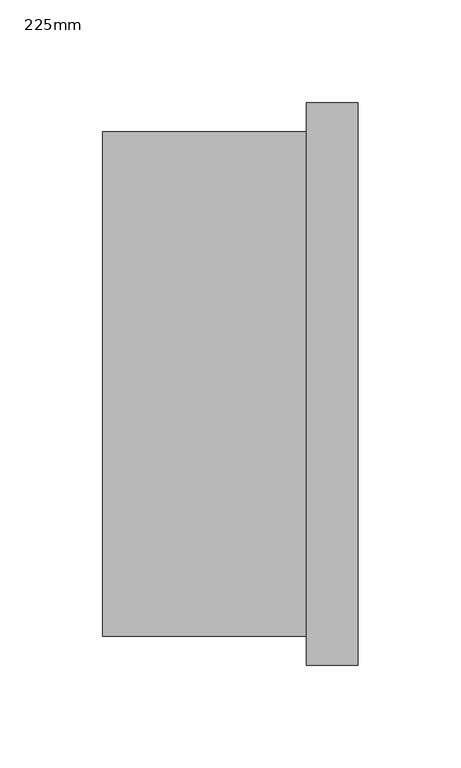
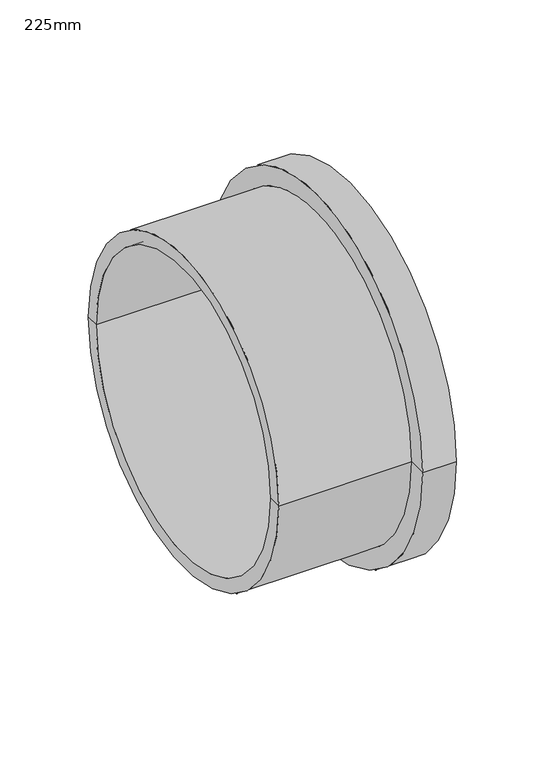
"""IFC4 building model written with IfcOpenShell, lengths in millimetres: pipe fitting geometry, Durapipe_PipeFitting_PVC_StubFlange : 225mm."""

from ifc_helpers import new_model, si_unit, frame, origin, place, context, project, spatial, polyline, circle_curve, source, transform, mapped, element, save
from ifc_brep_helpers import plane_surface, cylinder_surface, revolved_surface, advanced_brep


def pipe_fitting_225mm_01b42598(model_context):
    return source(origin(), model_context, "Body", "AdvancedBrep", [
        advanced_brep(
        [(62.0, -136.5, 0.0), (62.0, 136.5, 0.0), (62.0, 134.75, 0.0), (62.0, -134.75, 0.0), (62.0, 100.0, 0.0), (62.0, -100.0, 0.0), (62.0, -131.0220779, 0.0), (62.0, 131.0220779, 0.0), (37.0, -136.5, 0.0), (37.0, 136.5, 0.0), (37.0, -122.5, 0.0), (37.0, 122.5, 0.0), (-62.0, -122.5, 0.0), (-62.0, 122.5, 0.0), (-62.0, -112.5, 0.0), (-62.0, 112.5, 0.0), (56.5, -112.5, 0.0), (56.5, 112.5, 0.0), (62.0, 132.2647186, 0.0), (60.5, 131.6433983, 0.0), (60.5, -131.6433983, 0.0), (62.0, -132.2647186, 0.0), (60.5, -132.886039, 0.0), (60.5, 132.886039, 0.0), (62.0, -133.5073593, 0.0), (62.0, 133.5073593, 0.0), (60.5, -134.1286797, 0.0), (60.5, 134.1286797, 0.0), (56.5, 100.0, 0.0), (56.5, -100.0, 0.0)],
        [
            (0, 1, circle_curve(frame((62.0, 0.0, 0.0), z_axis=(1.0, 0.0, 0.0), x_axis=(0.0, 1.0, 0.0)), 136.5)),
            (1, 2),
            (2, 3, circle_curve(frame((62.0, 0.0, 0.0), z_axis=(-1.0, 0.0, 0.0), x_axis=(0.0, -1.0, 0.0)), 134.75)),
            (3, 0),
            (4, 5, circle_curve(frame((62.0, 0.0, 0.0), z_axis=(-1.0, 0.0, 0.0), x_axis=(0.0, 1.0, 0.0)), 100.0)),
            (5, 6),
            (6, 7, circle_curve(frame((62.0, 0.0, 0.0), z_axis=(1.0, 0.0, 0.0), x_axis=(0.0, -1.0, 0.0)), 131.0220779)),
            (7, 4),
            (1, 0, circle_curve(frame((62.0, 0.0, 0.0), z_axis=(1.0, 0.0, 0.0), x_axis=(0.0, 1.0, 0.0)), 136.5)),
            (3, 2, circle_curve(frame((62.0, 0.0, 0.0), z_axis=(-1.0, 0.0, 0.0), x_axis=(0.0, 1.0, 0.0)), 134.75)),
            (5, 4, circle_curve(frame((62.0, 0.0, 0.0), z_axis=(-1.0, 0.0, 0.0), x_axis=(0.0, 1.0, 0.0)), 100.0)),
            (7, 6, circle_curve(frame((62.0, 0.0, 0.0), z_axis=(1.0, 0.0, 0.0), x_axis=(0.0, 1.0, 0.0)), 131.0220779)),
            (0, 8),
            (8, 9, circle_curve(frame((37.0, 0.0, 0.0), z_axis=(1.0, 0.0, 0.0), x_axis=(0.0, 1.0, 0.0)), 136.5)),
            (9, 1),
            (9, 8, circle_curve(frame((37.0, 0.0, 0.0), z_axis=(1.0, 0.0, 0.0), x_axis=(0.0, 1.0, 0.0)), 136.5)),
            (8, 10),
            (10, 11, circle_curve(frame((37.0, 0.0, 0.0), z_axis=(1.0, 0.0, 0.0), x_axis=(0.0, 1.0, 0.0)), 122.5)),
            (11, 9),
            (11, 10, circle_curve(frame((37.0, 0.0, 0.0), z_axis=(1.0, 0.0, 0.0), x_axis=(0.0, 1.0, 0.0)), 122.5)),
            (10, 12),
            (12, 13, circle_curve(frame((-62.0, 0.0, 0.0), z_axis=(1.0, 0.0, 0.0), x_axis=(0.0, 1.0, 0.0)), 122.5)),
            (13, 11),
            (13, 12, circle_curve(frame((-62.0, 0.0, 0.0), z_axis=(1.0, 0.0, 0.0), x_axis=(0.0, 1.0, 0.0)), 122.5)),
            (12, 14),
            (14, 15, circle_curve(frame((-62.0, 0.0, 0.0), z_axis=(1.0, 0.0, 0.0), x_axis=(0.0, 1.0, 0.0)), 112.5)),
            (15, 13),
            (15, 14, circle_curve(frame((-62.0, 0.0, 0.0), z_axis=(1.0, 0.0, 0.0), x_axis=(0.0, 1.0, 0.0)), 112.5)),
            (14, 16),
            (16, 17, circle_curve(frame((56.5, 0.0, 0.0), z_axis=(1.0, 0.0, 0.0), x_axis=(0.0, 1.0, 0.0)), 112.5)),
            (17, 15),
            (17, 16, circle_curve(frame((56.5, 0.0, 0.0), z_axis=(1.0, 0.0, 0.0), x_axis=(0.0, 1.0, 0.0)), 112.5)),
            (18, 19),
            (19, 20, circle_curve(frame((60.5, 0.0, 0.0), z_axis=(-1.0, 0.0, 0.0), x_axis=(0.0, -1.0, 0.0)), 131.6433983)),
            (20, 21),
            (21, 18, circle_curve(frame((62.0, 0.0, 0.0), z_axis=(1.0, 0.0, 0.0), x_axis=(0.0, -1.0, 0.0)), 132.2647186)),
            (21, 22),
            (22, 23, circle_curve(frame((60.5, 0.0, 0.0), z_axis=(1.0, 0.0, 0.0), x_axis=(0.0, -1.0, 0.0)), 132.886039)),
            (23, 18),
            (22, 24),
            (24, 25, circle_curve(frame((62.0, 0.0, 0.0), z_axis=(1.0, 0.0, 0.0), x_axis=(0.0, -1.0, 0.0)), 133.5073593)),
            (25, 23),
            (24, 26),
            (26, 27, circle_curve(frame((60.5, 0.0, 0.0), z_axis=(1.0, 0.0, 0.0), x_axis=(0.0, -1.0, 0.0)), 134.1286797)),
            (27, 25),
            (26, 3),
            (2, 27),
            (19, 7),
            (6, 20),
            (18, 21, circle_curve(frame((62.0, 0.0, 0.0), z_axis=(1.0, 0.0, 0.0), x_axis=(0.0, 1.0, 0.0)), 132.2647186)),
            (20, 19, circle_curve(frame((60.5, 0.0, 0.0), z_axis=(-1.0, 0.0, 0.0), x_axis=(0.0, 1.0, 0.0)), 131.6433983)),
            (23, 22, circle_curve(frame((60.5, 0.0, 0.0), z_axis=(1.0, 0.0, 0.0), x_axis=(0.0, 1.0, 0.0)), 132.886039)),
            (25, 24, circle_curve(frame((62.0, 0.0, 0.0), z_axis=(1.0, 0.0, 0.0), x_axis=(0.0, 1.0, 0.0)), 133.5073593)),
            (27, 26, circle_curve(frame((60.5, 0.0, 0.0), z_axis=(1.0, 0.0, 0.0), x_axis=(0.0, 1.0, 0.0)), 134.1286797)),
            (4, 28),
            (28, 29, circle_curve(frame((56.5, 0.0, 0.0), z_axis=(-1.0, 0.0, 0.0), x_axis=(0.0, 1.0, 0.0)), 100.0)),
            (29, 5),
            (29, 28, circle_curve(frame((56.5, 0.0, 0.0), z_axis=(-1.0, 0.0, 0.0), x_axis=(0.0, 1.0, 0.0)), 100.0)),
            (16, 29),
            (28, 17),
        ],
        [
            plane_surface(frame((62.0, 0.0, 0.0), z_axis=(1.0, 0.0, 0.0), x_axis=(0.0, 1.0, 0.0))),
            cylinder_surface(frame((65.1035546, 0.0, 0.0), z_axis=(-1.0, 0.0, 0.0), x_axis=(0.0, 1.0, 0.0)), 136.5),
            plane_surface(frame((37.0, 0.0, 0.0), z_axis=(-1.0, 0.0, 0.0), x_axis=(0.0, 1.0, 0.0))),
            cylinder_surface(frame((65.1035546, 0.0, 0.0), z_axis=(-1.0, 0.0, 0.0), x_axis=(0.0, 1.0, 0.0)), 122.5),
            plane_surface(frame((-62.0, 0.0, 0.0), z_axis=(-1.0, 0.0, 0.0), x_axis=(0.0, 1.0, 0.0))),
            revolved_surface(polyline([(-62.0, 112.5, 0.0), (56.5, 112.5, 0.0)]), (-63.8250714, 0.0, 0.0), (-1.0, 0.0, 0.0)),
            revolved_surface(polyline([(62.0, -132.2647186, 0.0), (60.5, -131.6433983, 0.0)]), (62.0, 0.0, 0.0), (1.0, 0.0, 0.0)),
            revolved_surface(polyline([(60.5, -132.886039, 0.0), (62.0, -132.2647186, 0.0)]), (62.0, 0.0, 0.0), (1.0, 0.0, 0.0)),
            revolved_surface(polyline([(62.0, -133.5073593, 0.0), (60.5, -132.886039, 0.0)]), (62.0, 0.0, 0.0), (1.0, 0.0, 0.0)),
            revolved_surface(polyline([(60.5, -134.1286797, 0.0), (62.0, -133.5073593, 0.0)]), (62.0, 0.0, 0.0), (1.0, 0.0, 0.0)),
            revolved_surface(polyline([(62.0, -134.75, 0.0), (60.5, -134.1286797, 0.0)]), (62.0, 0.0, 0.0), (1.0, 0.0, 0.0)),
            revolved_surface(polyline([(60.5, -131.6433983, 0.0), (62.0, -131.0220779, 0.0)]), (62.0, 0.0, 0.0), (1.0, 0.0, 0.0)),
            revolved_surface(polyline([(62.0, 132.2647186, 0.0), (60.5, 131.6433983, 0.0)]), (62.0, 0.0, 0.0), (1.0, 0.0, 0.0)),
            revolved_surface(polyline([(60.5, 132.886039, 0.0), (62.0, 132.2647186, 0.0)]), (62.0, 0.0, 0.0), (1.0, 0.0, 0.0)),
            revolved_surface(polyline([(62.0, 133.5073593, 0.0), (60.5, 132.886039, 0.0)]), (62.0, 0.0, 0.0), (1.0, 0.0, 0.0)),
            revolved_surface(polyline([(60.5, 134.1286797, 0.0), (62.0, 133.5073593, 0.0)]), (62.0, 0.0, 0.0), (1.0, 0.0, 0.0)),
            revolved_surface(polyline([(62.0, 134.75, 0.0), (60.5, 134.1286797, 0.0)]), (62.0, 0.0, 0.0), (1.0, 0.0, 0.0)),
            revolved_surface(polyline([(60.5, 131.6433983, 0.0), (62.0, 131.0220779, 0.0)]), (62.0, 0.0, 0.0), (1.0, 0.0, 0.0)),
            revolved_surface(polyline([(56.5, 100.0, 0.0), (62.0, 100.0, 0.0)]), (65.1035546, 0.0, 0.0), (-1.0, 0.0, 0.0)),
            plane_surface(frame((56.5, 0.0, 0.0), z_axis=(-1.0, 0.0, 0.0), x_axis=(0.0, 1.0, 0.0))),
        ],
        [
            (0, [[1, 2, 3, 4]]),
            (0, [[5, 6, 7, 8]]),
            (0, [[9, -4, 10, -2]]),
            (0, [[11, -8, 12, -6]]),
            (1, [[-1, 13, 14, 15]]),
            (1, [[-9, -15, 16, -13]]),
            (2, [[-14, 17, 18, 19]]),
            (2, [[-16, -19, 20, -17]]),
            (3, [[-18, 21, 22, 23]]),
            (3, [[-20, -23, 24, -21]]),
            (4, [[-22, 25, 26, 27]]),
            (4, [[-24, -27, 28, -25]]),
            (5, [[29, 30, 31, -26]]),
            (5, [[-29, -28, -31, 32]]),
            (6, [[33, 34, 35, 36]]),
            (7, [[-36, 37, 38, 39]]),
            (8, [[-38, 40, 41, 42]]),
            (9, [[-41, 43, 44, 45]]),
            (10, [[-44, 46, -3, 47]]),
            (11, [[-34, 48, -7, 49]]),
            (12, [[-33, 50, -35, 51]]),
            (13, [[-39, 52, -37, -50]]),
            (14, [[-42, 53, -40, -52]]),
            (15, [[-45, 54, -43, -53]]),
            (16, [[-47, -10, -46, -54]]),
            (17, [[-48, -51, -49, -12]]),
            (18, [[-5, 55, 56, 57]]),
            (18, [[-11, -57, 58, -55]]),
            (19, [[-30, 59, -56, 60]]),
            (19, [[-32, -60, -58, -59]]),
        ],
    ),
    ])


if __name__ == "__main__":
    model = new_model("IFC4")
    model_context = context("Model", 3, world=origin())
    ifc_project = project(units=[si_unit("LENGTHUNIT", "METRE", prefix="MILLI")], contexts=[model_context])
    site = spatial("IfcSite", under=ifc_project)
    building = spatial("IfcBuilding", under=site)
    placement = place(None, origin())
    pipe_fitting_225mm_shape = pipe_fitting_225mm_01b42598(model_context)
    element("IfcPipeFitting", 1, ObjectType="Durapipe_PipeFitting_PVC_StubFlange : 225mm", at=placement, inside=building, context=model_context, shape_type="MappedRepresentation", body=[
        mapped(pipe_fitting_225mm_shape, transform((0.0, 0.0, 0.0), x_axis=(1.0, 0.0, 0.0), y_axis=(0.0, 1.0, 0.0), z_axis=(0.0, 0.0, 1.0))),
    ])
    save(model, "model.ifc")
